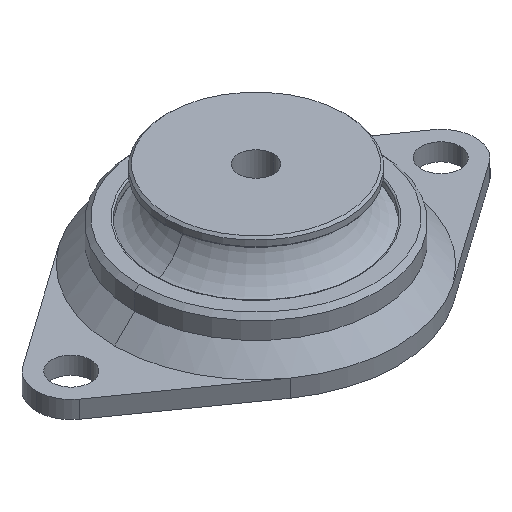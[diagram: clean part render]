
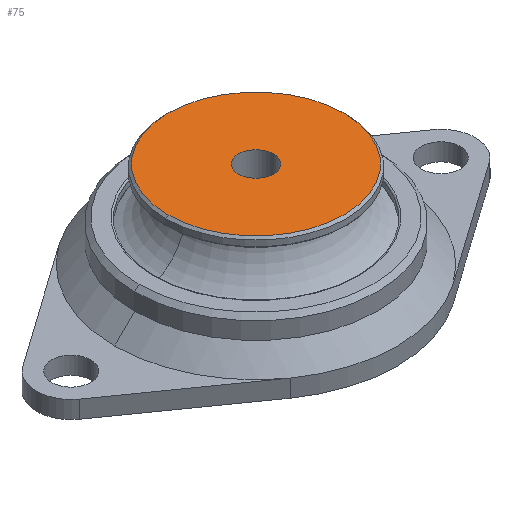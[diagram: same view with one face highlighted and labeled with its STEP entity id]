
A CAD part, isometric view. The second image highlights one B-rep face of the part: STEP entity #75.
In plain terms, the highlighted planar face has unit normal (0, 0, 1).
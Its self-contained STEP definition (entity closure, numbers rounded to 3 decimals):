
#75=ADVANCED_FACE('',(#165,#166),#167,.T.);
#165=FACE_BOUND('',#300,.T.);
#166=FACE_OUTER_BOUND('',#301,.T.);
#167=PLANE('',#302);
#300=EDGE_LOOP('',(#582,#583));
#301=EDGE_LOOP('',(#584,#585));
#302=AXIS2_PLACEMENT_3D('',#586,#587,#588);
#582=ORIENTED_EDGE('',*,*,#921,.F.);
#583=ORIENTED_EDGE('',*,*,#897,.F.);
#584=ORIENTED_EDGE('',*,*,#901,.T.);
#585=ORIENTED_EDGE('',*,*,#920,.T.);
#586=CARTESIAN_POINT('',(-12.125,0.0,24.0));
#587=DIRECTION('',(0.0,0.0,1.0));
#588=DIRECTION('',(-1.0,0.0,0.0));
#897=EDGE_CURVE('',#1125,#1121,#1127,.T.);
#901=EDGE_CURVE('',#1129,#1133,#1135,.T.);
#920=EDGE_CURVE('',#1133,#1129,#1160,.T.);
#921=EDGE_CURVE('',#1121,#1125,#1161,.T.);
#1121=VERTEX_POINT('',#1365);
#1125=VERTEX_POINT('',#1370);
#1127=CIRCLE('',#1373,4.0);
#1129=VERTEX_POINT('',#1375);
#1133=VERTEX_POINT('',#1380);
#1135=CIRCLE('',#1383,20.25);
#1160=CIRCLE('',#1412,20.25);
#1161=CIRCLE('',#1413,4.0);
#1365=CARTESIAN_POINT('',(-4.0,0.0,24.0));
#1370=CARTESIAN_POINT('',(4.0,0.,24.0));
#1373=AXIS2_PLACEMENT_3D('',#1637,#1638,#1639);
#1375=CARTESIAN_POINT('',(-20.25,0.0,24.0));
#1380=CARTESIAN_POINT('',(20.25,0.,24.0));
#1383=AXIS2_PLACEMENT_3D('',#1645,#1646,#1647);
#1412=AXIS2_PLACEMENT_3D('',#1694,#1695,#1696);
#1413=AXIS2_PLACEMENT_3D('',#1697,#1698,#1699);
#1637=CARTESIAN_POINT('',(0.0,0.0,24.0));
#1638=DIRECTION('',(0.0,0.0,1.0));
#1639=DIRECTION('',(-1.0,0.0,0.0));
#1645=CARTESIAN_POINT('',(0.0,0.0,24.0));
#1646=DIRECTION('',(0.0,0.0,1.0));
#1647=DIRECTION('',(-1.0,0.0,0.0));
#1694=CARTESIAN_POINT('',(0.0,0.0,24.0));
#1695=DIRECTION('',(0.0,0.0,1.0));
#1696=DIRECTION('',(-1.0,0.0,0.0));
#1697=CARTESIAN_POINT('',(0.0,0.0,24.0));
#1698=DIRECTION('',(0.0,0.0,1.0));
#1699=DIRECTION('',(-1.0,0.0,0.0));
